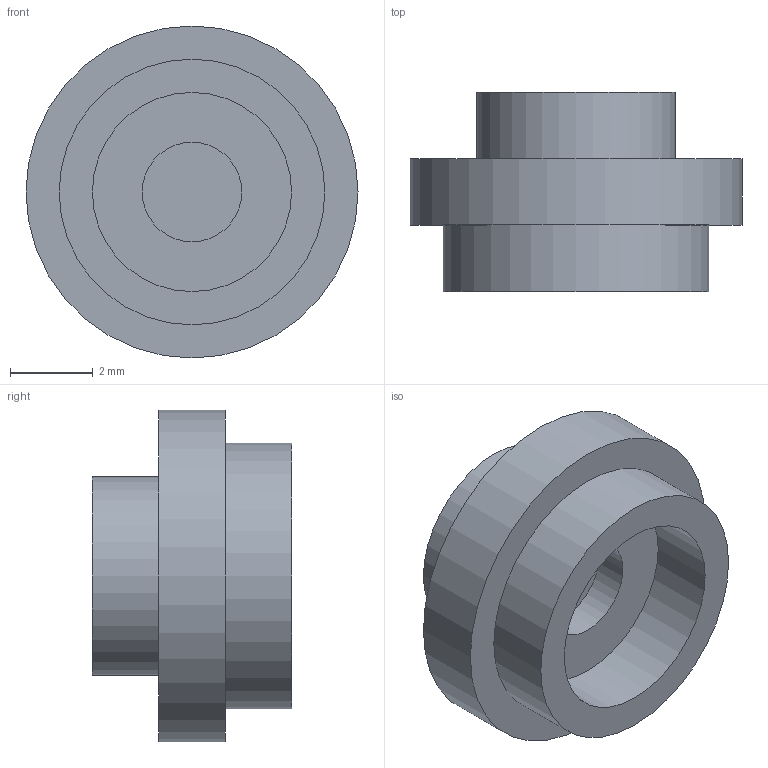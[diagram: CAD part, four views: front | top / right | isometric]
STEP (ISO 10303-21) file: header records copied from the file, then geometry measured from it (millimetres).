
FILE_DESCRIPTION(/* description */ ('Unknown'),/* implementation_level */ '2;1');
FILE_NAME(/* name */ 'Trans_3005740_JC',/* time_stamp */ '2025-07-22T00:05:42+02:00',/* author */ ('Unknown'),/* organization */ ('Unknown'),/* preprocessor_version */ 'ST-DEVELOPER v19.4',/* originating_system */ 'Solid Edge',/* authorisation */ 'Unknown');
FILE_SCHEMA (('AUTOMOTIVE_DESIGN {1 0 10303 214 3 1 1}'));
Length unit declared in the file: millimetre
Products named in the file (1): Trans_3005740_JC
Bounding box: 8 x 4.8 x 8 mm (x, y, z)
Volume: 128.3 mm3; surface area: 227.2 mm2
Topology: 1 solids, 1 shells, 11 faces, 15 edges, 10 vertices
Faces by surface type: plane 6, cylinder 5
Full cylindrical faces by diameter (mm): 2.4 x1, 4.8 x2, 6.4 x1, 8 x1
Entity records: 246 total; most frequent: DIRECTION 44, CARTESIAN_POINT 32, AXIS2_PLACEMENT_3D 22, ORIENTED_EDGE 20, EDGE_LOOP 20, FACE_BOUND 20, ADVANCED_FACE 11, EDGE_CURVE 10
